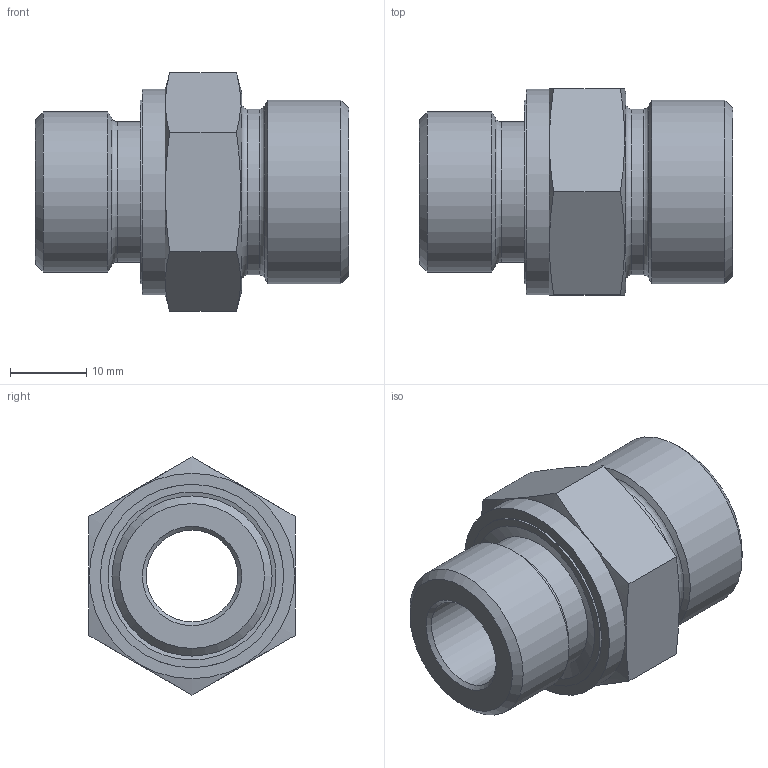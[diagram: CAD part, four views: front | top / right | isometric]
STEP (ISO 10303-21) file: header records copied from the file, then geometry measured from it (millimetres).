
FILE_DESCRIPTION( ( 'Unknown' ), '1' );
FILE_NAME( 'C:/Users/p.nanko/Desktop/3D SR/XGE16SED04.stp', 'Unknown', ( 'Peter Nanko' ), ( 'Armaturen Arndt' ), 'PSStep 14.0', 'Solid Edge ST4', ' ' );
FILE_SCHEMA( ( 'AUTOMOTIVE_DESIGN { 1 0 10303 214 1 1 1 1 }' ) );
Length unit declared in the file: millimetre
Products named in the file (3): Assem1; ED04; XGE16SED043
Assembly tree (2 placements, depth 2):
  Assem1
    ED04
    XGE16SED043
Bounding box: 41 x 27 x 31.18 mm (x, y, z)
Volume: 12988 mm3; surface area: 6536.9 mm2
Topology: 2 solids, 2 shells, 37 faces, 74 edges, 45 vertices
Faces by surface type: plane 14, cylinder 10, cone 9, torus 4
Full cylindrical faces by diameter (mm): 12 x1, 16 x1, 18.4 x2, 20.955 x1, 21.7 x1, 24 x3, 26.9 x1
Entity records: 1246 total; most frequent: CARTESIAN_POINT 230, DIRECTION 146, ORIENTED_EDGE 96, AXIS2_PLACEMENT_3D 70, EDGE_LOOP 68, FACE_OUTER_BOUND 51, EDGE_CURVE 48, VERTEX_POINT 42
